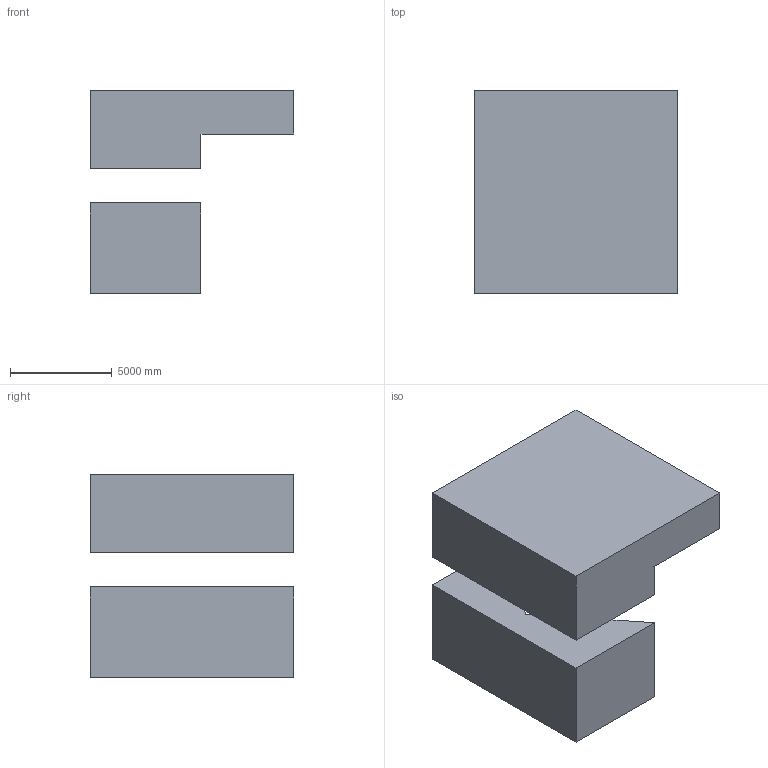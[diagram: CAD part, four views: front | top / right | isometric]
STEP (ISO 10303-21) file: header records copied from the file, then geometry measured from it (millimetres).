
FILE_DESCRIPTION (( 'STEP AP203' ), '1' );
FILE_NAME ('1087.STEP', '2022-08-18T12:42:24', ( 'user' ), ( '' ), 'SwSTEP 2.0', 'SolidWorks 2021', '' );
FILE_SCHEMA (( 'CONFIG_CONTROL_DESIGN' ));
Length unit declared in the file: centimetre
Products named in the file (1): 1087
Bounding box: 10000 x 10000 x 10000 mm (x, y, z)
Volume: 428374974826.2 mm3; surface area: 562759137.7 mm2
Topology: 2 solids, 2 shells, 16 faces, 36 edges, 24 vertices
Faces by surface type: plane 16
Entity records: 515 total; most frequent: CARTESIAN_POINT 77, ORIENTED_EDGE 72, DIRECTION 70, VECTOR 36, EDGE_CURVE 36, LINE 36, VERTEX_POINT 24, AXIS2_PLACEMENT_3D 17
